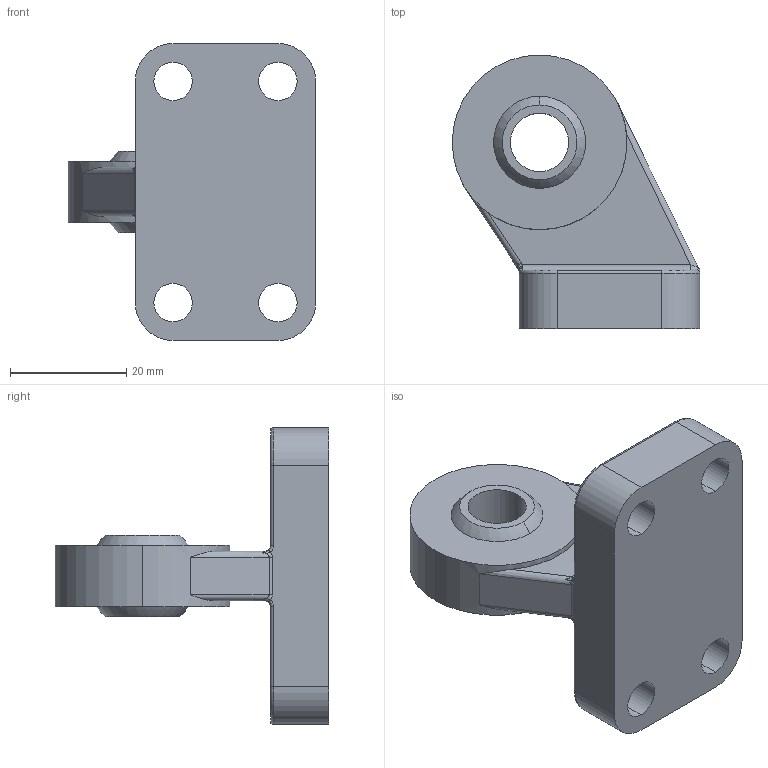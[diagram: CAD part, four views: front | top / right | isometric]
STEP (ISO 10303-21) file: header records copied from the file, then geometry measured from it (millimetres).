
FILE_DESCRIPTION (( 'STEP AP214' ), '1' );
FILE_NAME ('ES5032.step.step', '2022-07-13T12:36:14', ( '' ), ( '' ), 'SwSTEP 2.0', 'SolidWorks 2022', '' );
FILE_SCHEMA (( 'AUTOMOTIVE_DESIGN' ));
Length unit declared in the file: millimetre
Products named in the file (2): ES5032.step_Clevis Pivot Bracket Ball Joint_5032; ES5032.step
Assembly tree (1 placements, depth 2):
  ES5032.step
    ES5032.step_Clevis Pivot Bracket Ball Joint_5032
Bounding box: 42.5 x 47 x 51 mm (x, y, z)
Volume: 23695.4 mm3; surface area: 8417.1 mm2
Topology: 1 solids, 1 shells, 78 faces, 189 edges, 117 vertices
Faces by surface type: cylinder 38, plane 19, bspline 13, torus 8
Entity records: 2772 total; most frequent: CARTESIAN_POINT 930, DIRECTION 379, ORIENTED_EDGE 374, EDGE_CURVE 187, AXIS2_PLACEMENT_3D 158, VERTEX_POINT 117, EDGE_LOOP 94, CIRCLE 89
